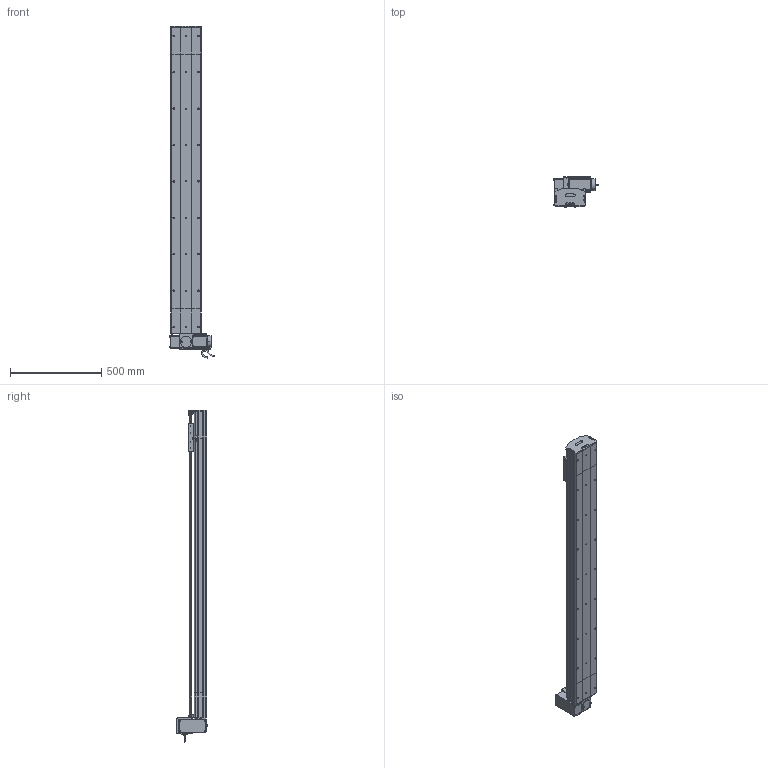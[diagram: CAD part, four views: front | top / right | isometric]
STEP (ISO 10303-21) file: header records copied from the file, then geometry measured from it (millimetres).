
FILE_DESCRIPTION (( 'STEP AP214' ), '1' );
FILE_NAME ('D17 TBH RT S1400.STEP', '2010-06-30T08:03:16', ( 'Christophe Gaillard' ), ( 'SGA' ), 'SwSTEP 2.0', 'SolidWorks 2010', '' );
FILE_SCHEMA (( 'AUTOMOTIVE_DESIGN' ));
Length unit declared in the file: millimetre
Products named in the file (40): chariot D17S_Default; couroie head D17_Default; vis M5 L5_Default; D17 TBH RT S1400; cache D17_Default; course 1400 D17B_Default; Arbre+rail head D17B; plaque de  bout head D17B RT_Default; Couroie+ rail D17 Course 1400 ; couvercle D17B head_Default; poulie head_Default; corp D17B 1400_Default; corpl head D17 _Default; Head RT D17B_Default; couvercle D17B course L1400_Default; Couroie tail D17B_Default; poulie tail_Default; plaque de  bout tail D17B_Default; vis M5 L25_Default; vis M5 L8 90°_Default; couvercle D17B_Default; Rail D17B; tete d''axe poulie D17B; avant 90BLDC125A-640; corpl tail D17B_Default; Moteur motionking 90BLDC125A-640; corps 90BLDC125A-640; Tail D17B_Default; Renvoi RT_Default; Conecteur2_Default; codeur 90BLDC125-640; cache arbre D17_Default; Chariot D17; Vis M5 L16-2_Default; vis M5 L16_Default; Conecteur_Default; Plaque racord D17_Default; vis M5 L70_Default; vis M5 L12_Default; guide D17
Assembly tree (70 placements, depth 4):
  D17 TBH RT S1400
    Tail D17B_Default
      corpl tail D17B_Default
      vis M5 L8 90°_Default  x2
      vis M5 L25_Default  x2
      vis M5 L12_Default  x4
      Rail D17B
      Couroie tail D17B_Default
      poulie tail_Default
      tete d''axe poulie D17B
      couvercle D17B_Default
      plaque de  bout tail D17B_Default
    chariot D17S_Default
      guide D17  x2
      vis M5 L12_Default  x4
      Chariot D17
    course 1400 D17B_Default
      couvercle D17B course L1400_Default
      Couroie+ rail D17 Course 1400 
      corp D17B 1400_Default
    Head RT D17B_Default
      vis M5 L16_Default  x2
      couroie head D17_Default
      vis M5 L12_Default  x8
      vis M5 L70_Default  x4
      vis M5 L25_Default  x2
      couvercle D17B head_Default
      vis M5 L5_Default  x4
      plaque de  bout head D17B RT_Default
      Vis M5 L16-2_Default  x4
      cache D17_Default  x2
      Plaque racord D17_Default
      Moteur motionking 90BLDC125A-640
        Conecteur2_Default
        Conecteur_Default
        avant 90BLDC125A-640
        corps 90BLDC125A-640
        codeur 90BLDC125-640
      Renvoi RT_Default
      cache arbre D17_Default
      Arbre+rail head D17B
      poulie head_Default
      corpl head D17 _Default
Bounding box: 245.2 x 166.15 x 1823.95 mm (x, y, z)
Volume: 11217004.1 mm3; surface area: 3172601.2 mm2
Topology: 94 solids, 94 shells, 2677 faces, 6733 edges, 4334 vertices
Faces by surface type: plane 1607, cylinder 757, bspline 136, cone 88, torus 85, sphere 4
Entity records: 83760 total; most frequent: CARTESIAN_POINT 24801, ORIENTED_EDGE 10238, DIRECTION 9724, EDGE_CURVE 5119, LINE 3422, VECTOR 3422, VERTEX_POINT 3358, AXIS2_PLACEMENT_3D 3151
